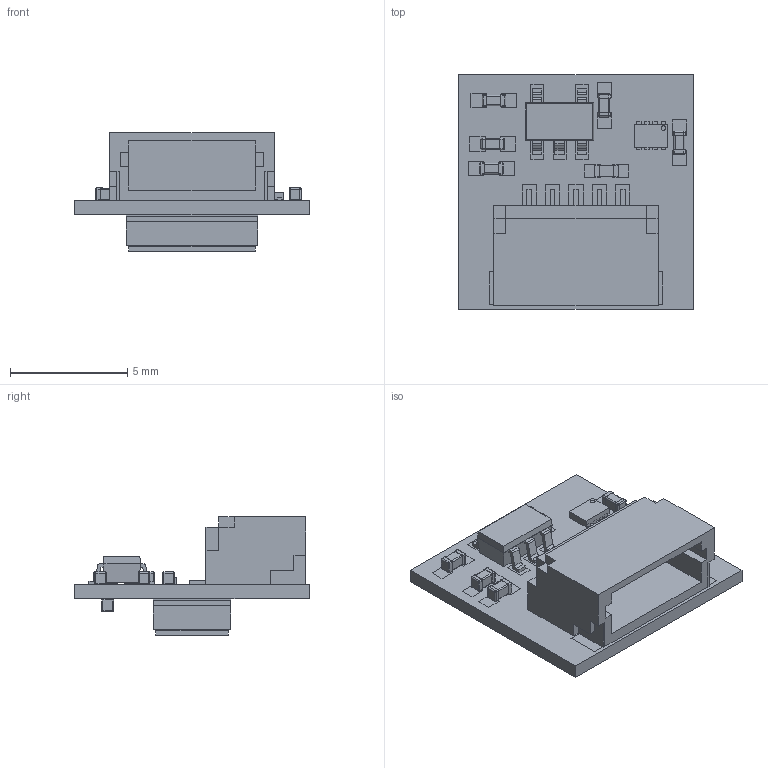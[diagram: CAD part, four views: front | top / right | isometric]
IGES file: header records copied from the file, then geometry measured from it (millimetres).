
Global section: file name: Filename.iges; native system: Open CASCADE 7.4; preprocessor: Open CASCADE IGES processor 7.4; date: 20200811.130811; units: millimetre
Bounding box: 10 x 10.01 x 5.04 mm (x, y, z)
Surface area: 814.6 mm2 (no closed solid volume)
Topology: 0 solids, 0 shells, 1121 faces, 5792 edges, 8432 vertices
Faces by surface type: plane 930, revolution 191
